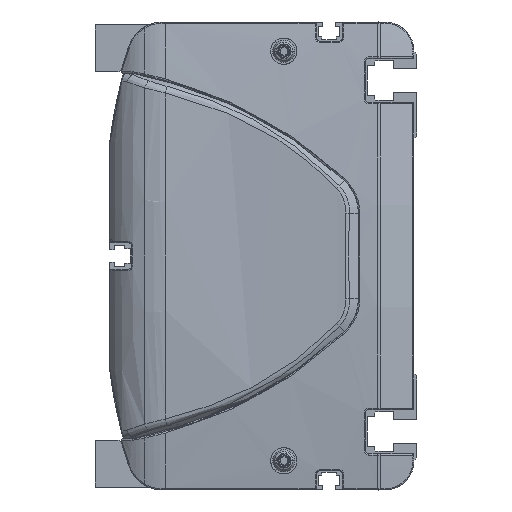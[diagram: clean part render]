
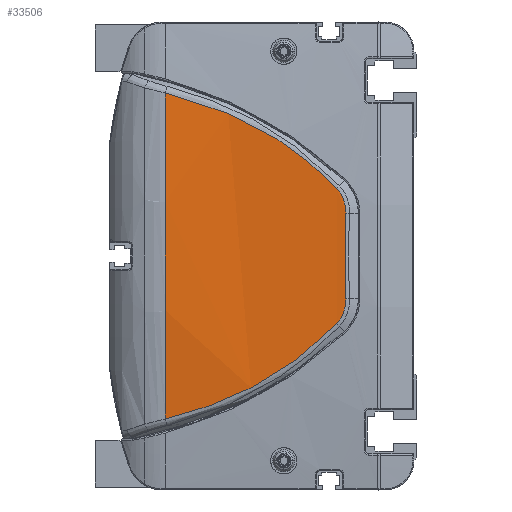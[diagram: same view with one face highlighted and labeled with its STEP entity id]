
A CAD part, left-side view. The second image highlights one B-rep face of the part: STEP entity #33506.
In plain terms, the highlighted cylindrical face has radius 600 mm (diameter 1200 mm), a partial arc.
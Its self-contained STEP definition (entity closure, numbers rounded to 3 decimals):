
#11338=CARTESIAN_POINT('',(-12.406,86.,
55.736));
#11339=CARTESIAN_POINT('',(-12.529,80.495,
54.41));
#11340=CARTESIAN_POINT('',(-12.828,69.636,
51.114));
#11341=CARTESIAN_POINT('',(-13.389,54.079,
44.179));
#11342=CARTESIAN_POINT('',(-14.01,39.709,
34.979));
#11343=CARTESIAN_POINT('',(-14.395,31.353,
27.243));
#11344=CARTESIAN_POINT('',(-14.555,27.451,
23.113));
#11346=CARTESIAN_POINT('',(-14.555,27.451,
23.113));
#11347=CARTESIAN_POINT('',(-14.598,26.394,
21.994));
#11348=CARTESIAN_POINT('',(-14.695,24.746,
19.315));
#11349=CARTESIAN_POINT('',(-14.783,24.276,
16.208));
#11350=CARTESIAN_POINT('',(-14.821,24.351,
14.67));
#11352=CARTESIAN_POINT('',(-14.821,24.351,
14.67));
#11353=CARTESIAN_POINT('',(-14.9,24.51,
11.413));
#11354=CARTESIAN_POINT('',(-15.007,24.721,
4.895));
#11355=CARTESIAN_POINT('',(-15.007,24.721,
-4.895));
#11356=CARTESIAN_POINT('',(-14.9,24.51,
-11.413));
#11357=CARTESIAN_POINT('',(-14.821,24.351,
-14.67));
#11359=CARTESIAN_POINT('',(-14.821,24.351,
-14.67));
#11360=CARTESIAN_POINT('',(-14.783,24.276,
-16.208));
#11361=CARTESIAN_POINT('',(-14.695,24.746,
-19.315));
#11362=CARTESIAN_POINT('',(-14.598,26.394,
-21.995));
#11363=CARTESIAN_POINT('',(-14.555,27.451,
-23.113));
#11365=CARTESIAN_POINT('',(-14.555,27.451,
-23.113));
#11366=CARTESIAN_POINT('',(-14.395,31.353,
-27.243));
#11367=CARTESIAN_POINT('',(-14.01,39.709,
-34.979));
#11368=CARTESIAN_POINT('',(-13.389,54.079,
-44.179));
#11369=CARTESIAN_POINT('',(-12.828,69.636,
-51.114));
#11370=CARTESIAN_POINT('',(-12.529,80.495,
-54.41));
#11371=CARTESIAN_POINT('',(-12.406,86.,
-55.736));
#11373=CARTESIAN_POINT('',(585.,86.,0.));
#11374=DIRECTION('',(0.,1.,0.));
#11375=DIRECTION('',(-0.996,0.,-0.093));
#11376=AXIS2_PLACEMENT_3D('',#11373,#11374,#11375);
#11389=CARTESIAN_POINT('',(-12.406,86.,
55.736));
#13620=VERTEX_POINT('',#11389);
#13621=CARTESIAN_POINT('',(-12.406,86.,
-55.736));
#13622=VERTEX_POINT('',#13621);
#13672=VERTEX_POINT('',#11344);
#13673=VERTEX_POINT('',#11350);
#13674=VERTEX_POINT('',#11357);
#13675=VERTEX_POINT('',#11363);
#33488=CARTESIAN_POINT('',(585.,87.45,0.));
#33489=DIRECTION('',(0.,-1.,0.));
#33490=DIRECTION('',(0.,0.,-1.));
#33491=AXIS2_PLACEMENT_3D('',#33488,#33489,#33490);
#33492=CYLINDRICAL_SURFACE('',#33491,600.);
#33494=ORIENTED_EDGE('',*,*,#33493,.T.);
#33496=ORIENTED_EDGE('',*,*,#33495,.T.);
#33497=ORIENTED_EDGE('',*,*,#33478,.T.);
#33499=ORIENTED_EDGE('',*,*,#33498,.T.);
#33501=ORIENTED_EDGE('',*,*,#33500,.T.);
#33503=ORIENTED_EDGE('',*,*,#33502,.T.);
#33504=EDGE_LOOP('',(#33494,#33496,#33497,#33499,#33501,#33503));
#33505=FACE_OUTER_BOUND('',#33504,.F.);
#33506=ADVANCED_FACE('',(#33505),#33492,.T.);
#11345=B_SPLINE_CURVE_WITH_KNOTS('',3,(#11338,#11339,#11340,#11341,#11342,
#11343,#11344),.UNSPECIFIED.,.F.,.F.,(4,1,1,1,4),(0.,0.25,0.5,0.75,
1.),.UNSPECIFIED.);
#11351=B_SPLINE_CURVE_WITH_KNOTS('',3,(#11346,#11347,#11348,#11349,#11350),
.UNSPECIFIED.,.F.,.F.,(4,1,4),(0.,0.5,1.),.UNSPECIFIED.);
#11358=B_SPLINE_CURVE_WITH_KNOTS('',3,(#11352,#11353,#11354,#11355,#11356,
#11357),.UNSPECIFIED.,.F.,.F.,(4,1,1,4),(0.,0.333,
0.667,1.),.UNSPECIFIED.);
#11364=B_SPLINE_CURVE_WITH_KNOTS('',3,(#11359,#11360,#11361,#11362,#11363),
.UNSPECIFIED.,.F.,.F.,(4,1,4),(0.,0.5,1.),.UNSPECIFIED.);
#11372=B_SPLINE_CURVE_WITH_KNOTS('',3,(#11365,#11366,#11367,#11368,#11369,
#11370,#11371),.UNSPECIFIED.,.F.,.F.,(4,1,1,1,4),(0.,0.25,0.5,0.75,
1.),.UNSPECIFIED.);
#11377=CIRCLE('',#11376,600.);
#33478=EDGE_CURVE('',#13673,#13674,#11358,.T.);
#33493=EDGE_CURVE('',#13620,#13672,#11345,.T.);
#33495=EDGE_CURVE('',#13672,#13673,#11351,.T.);
#33498=EDGE_CURVE('',#13674,#13675,#11364,.T.);
#33500=EDGE_CURVE('',#13675,#13622,#11372,.T.);
#33502=EDGE_CURVE('',#13622,#13620,#11377,.T.);
